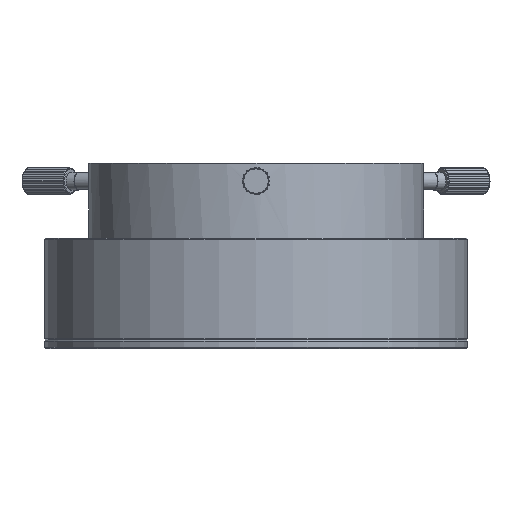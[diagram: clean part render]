
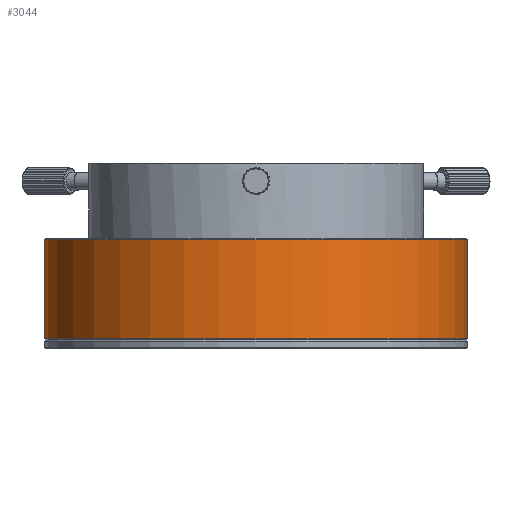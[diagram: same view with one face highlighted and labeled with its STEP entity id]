
A CAD part, front view. The second image highlights one B-rep face of the part: STEP entity #3044.
In plain terms, the highlighted cylindrical face has radius 48 mm (diameter 96 mm), a full revolution.
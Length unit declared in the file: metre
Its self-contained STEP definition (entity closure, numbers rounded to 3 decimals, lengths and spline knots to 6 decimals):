
#3044=ADVANCED_FACE('248:11748',(#7887,#7888),#7889,.T.);
#4668=EDGE_CURVE('248:16530',#10115,#10115,#10116,.T.);
#4714=EDGE_CURVE('248:16527',#10170,#10170,#10171,.T.);
#7887=FACE_OUTER_BOUND('',#14152,.T.);
#7888=FACE_OUTER_BOUND('',#14153,.T.);
#7889=CYLINDRICAL_SURFACE('',#14154,0.048);
#10115=VERTEX_POINT('',#22689);
#10116=CIRCLE('',#22690,0.048);
#10170=VERTEX_POINT('',#22787);
#10171=CIRCLE('',#22788,0.048);
#14152=EDGE_LOOP('',(#28691));
#14153=EDGE_LOOP('',(#28692));
#14154=AXIS2_PLACEMENT_3D('',#28693,#28694,#28695);
#22689=CARTESIAN_POINT('',(-0.048,0.0,0.0022));
#22690=AXIS2_PLACEMENT_3D('',#30259,#30260,#30261);
#22787=CARTESIAN_POINT('',(-0.048,0.0,0.0248));
#22788=AXIS2_PLACEMENT_3D('',#30288,#30289,#30290);
#28691=ORIENTED_EDGE('',*,*,#4714,.F.);
#28692=ORIENTED_EDGE('',*,*,#4668,.F.);
#28693=CARTESIAN_POINT('',(0.0,0.0,0.002));
#28694=DIRECTION('',(0.0,-0.0,1.0));
#28695=DIRECTION('',(1.0,0.0,0.0));
#30259=CARTESIAN_POINT('',(0.0,0.0,0.0022));
#30260=DIRECTION('',(0.0,0.0,-1.0));
#30261=DIRECTION('',(-1.0,0.0,0.0));
#30288=CARTESIAN_POINT('',(0.0,0.0,0.0248));
#30289=DIRECTION('',(0.0,0.0,1.0));
#30290=DIRECTION('',(-1.0,0.0,0.0));
